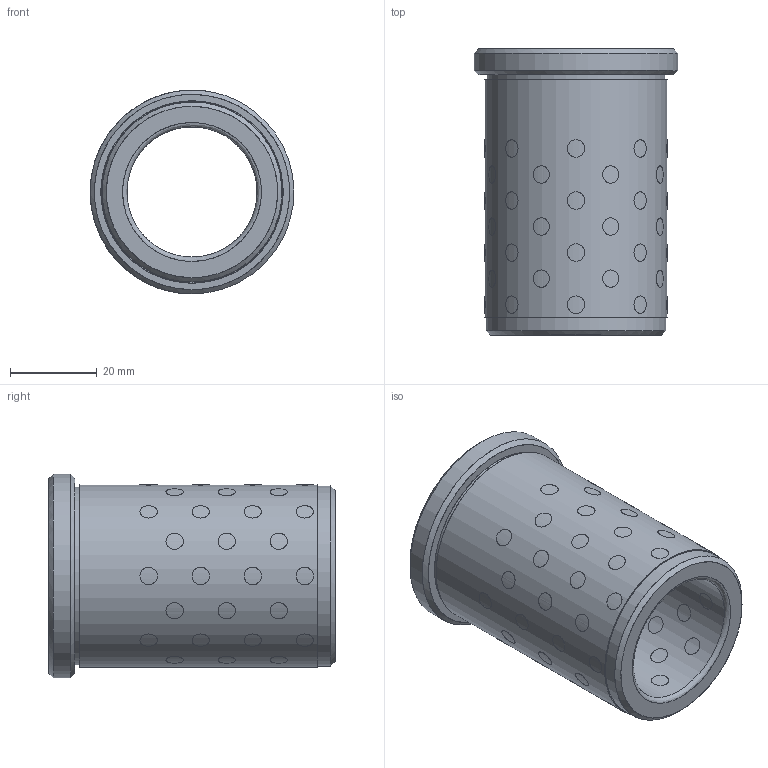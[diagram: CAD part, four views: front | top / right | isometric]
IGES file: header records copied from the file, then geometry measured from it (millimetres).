
Start section: Missler Software BP 521, 31674 Labege Cedex, France Tel   : +33 (0)5 61 00 03 00 Fax   : +33 (0)5 61 00 03 03 Email : sup.topsolid@topsolid.com
Global section: file name: D:\Cuma\D30.05\D30.05_3066.igs; native system: TopSolid v605250 Missler Software; preprocessor: IGES preprocessor v100000; date: 030120.204548; units: millimetre
Bounding box: 46.99 x 66 x 47 mm (x, y, z)
Surface area: 24088.5 mm2 (no closed solid volume)
Topology: 0 solids, 0 shells, 231 faces, 4820 edges, 4668 vertices
Faces by surface type: bspline 231
